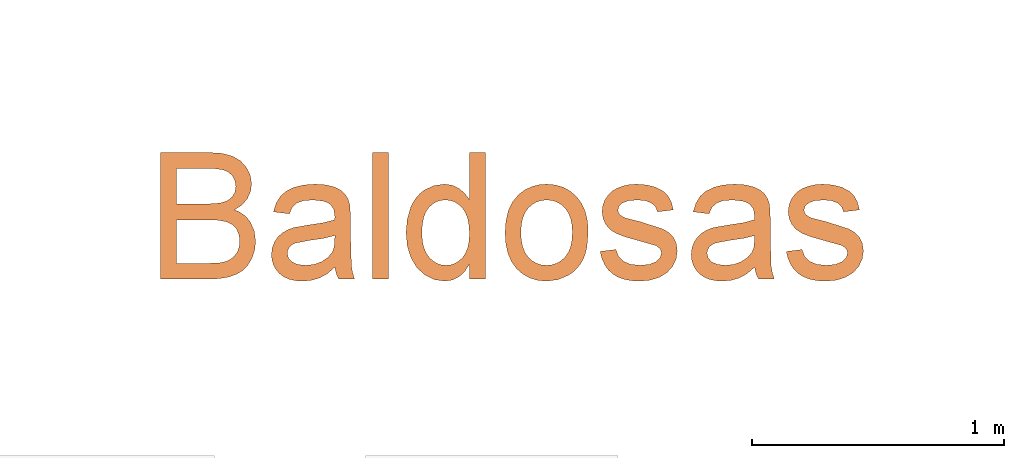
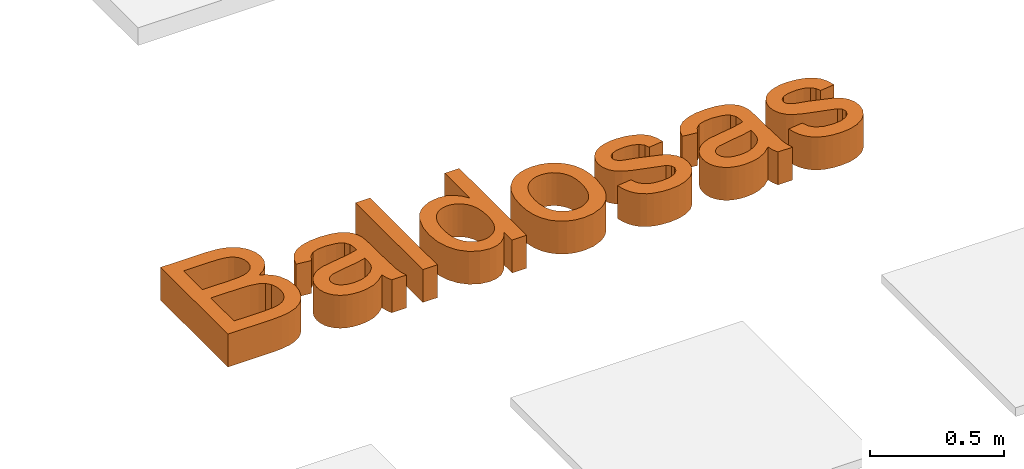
# One storey, part 7 of 19: 1 proxy.
"""IFC2X3 building model written with IfcOpenShell, lengths in metres."""

from ifc_helpers import new_model, entity, si_unit, converted_unit, derived_unit, direction, frame, frame_2d, origin, place, context, subcontext, project, spatial, polyline, rectangle, outline, extrude, type_object, element, save


model = new_model("IFC2X3")

# Units and contexts
model_context = context("Model", 3, precision=1e-05, world=origin(), true_north=direction((6.12303176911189e-17, 1.0)))
body_context = subcontext(model_context, "Body", "Model", "MODEL_VIEW")
ifc_project = project(units=[si_unit("LENGTHUNIT", "METRE"), si_unit("AREAUNIT", "SQUARE_METRE"), si_unit("VOLUMEUNIT", "CUBIC_METRE"), converted_unit("PLANEANGLEUNIT", "DEGREE", entity("IfcRatioMeasure", 0.0174532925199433), si_unit("PLANEANGLEUNIT", "RADIAN"), dimensions=[0, 0, 0, 0, 0, 0, 0]), si_unit("MASSUNIT", "GRAM", prefix="KILO"), derived_unit("MASSDENSITYUNIT", [(si_unit("MASSUNIT", "GRAM", prefix="KILO"), 1), (si_unit("LENGTHUNIT", "METRE"), -3)]), derived_unit("MOMENTOFINERTIAUNIT", [(si_unit("LENGTHUNIT", "METRE"), 4)]), si_unit("TIMEUNIT", "SECOND"), si_unit("FREQUENCYUNIT", "HERTZ"), si_unit("THERMODYNAMICTEMPERATUREUNIT", "DEGREE_CELSIUS"), derived_unit("THERMALTRANSMITTANCEUNIT", [(si_unit("MASSUNIT", "GRAM", prefix="KILO"), 1), (si_unit("THERMODYNAMICTEMPERATUREUNIT", "KELVIN"), -1), (si_unit("TIMEUNIT", "SECOND"), -3)]), derived_unit("VOLUMETRICFLOWRATEUNIT", [(si_unit("LENGTHUNIT", "METRE"), 3), (si_unit("TIMEUNIT", "SECOND"), -1)]), si_unit("ELECTRICCURRENTUNIT", "AMPERE"), si_unit("ELECTRICVOLTAGEUNIT", "VOLT"), si_unit("POWERUNIT", "WATT"), si_unit("FORCEUNIT", "NEWTON", prefix="KILO"), si_unit("ILLUMINANCEUNIT", "LUX"), si_unit("LUMINOUSFLUXUNIT", "LUMEN"), si_unit("LUMINOUSINTENSITYUNIT", "CANDELA"), derived_unit("USERDEFINED", [(si_unit("MASSUNIT", "GRAM", prefix="KILO"), -1), (si_unit("LENGTHUNIT", "METRE"), -2), (si_unit("TIMEUNIT", "SECOND"), 3), (si_unit("LUMINOUSFLUXUNIT", "LUMEN"), 1)]), derived_unit("LINEARVELOCITYUNIT", [(si_unit("LENGTHUNIT", "METRE"), 1), (si_unit("TIMEUNIT", "SECOND"), -1)]), si_unit("PRESSUREUNIT", "PASCAL"), derived_unit("USERDEFINED", [(si_unit("LENGTHUNIT", "METRE"), -2), (si_unit("MASSUNIT", "GRAM", prefix="KILO"), 1), (si_unit("TIMEUNIT", "SECOND"), -2)]), derived_unit("LINEARFORCEUNIT", [(si_unit("MASSUNIT", "GRAM", prefix="KILO"), 1), (si_unit("LENGTHUNIT", "METRE"), 1), (si_unit("TIMEUNIT", "SECOND"), -2), (si_unit("LENGTHUNIT", "METRE"), -1)]), derived_unit("PLANARFORCEUNIT", [(si_unit("MASSUNIT", "GRAM", prefix="KILO"), 1), (si_unit("LENGTHUNIT", "METRE"), 1), (si_unit("TIMEUNIT", "SECOND"), -2), (si_unit("LENGTHUNIT", "METRE"), -2)])], contexts=[model_context])

# Site, building, storey
site_placement = place(None, origin())
site = spatial("IfcSite", under=ifc_project, at=site_placement, Name="Default", CompositionType="ELEMENT")
building_placement = place(site_placement, origin())
building = spatial("IfcBuilding", under=site, at=building_placement, CompositionType="ELEMENT")
storey_placement = place(building_placement, origin())
storey = spatial("IfcBuildingStorey", under=building, at=storey_placement, Name="Nivel 1", CompositionType="ELEMENT", Elevation=0.0)

# Proxy
building_element_proxy_type = type_object("IfcBuildingElementProxyType", Name="Texto de modelo:Título", PredefinedType="NOTDEFINED")
proxy_placement = place(storey_placement, origin())
element("IfcBuildingElementProxy", 1, at=proxy_placement, inside=storey, type_object=building_element_proxy_type, Name="Texto de modelo:Título", ObjectType="Texto de modelo:Título", context=body_context, shape_type="SweptSolid", body=[
    extrude(outline(polyline([(-0.292681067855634, -0.243581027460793), (-0.102486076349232, -0.243581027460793), (-0.0585088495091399, -0.241419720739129), (-0.0219812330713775, -0.234935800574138), (0.00807779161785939, -0.22423656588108), (0.032649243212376, -0.209429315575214), (0.0527141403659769, -0.18898120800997), (0.0692535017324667, -0.16135940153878), (0.0803359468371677, -0.128878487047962), (0.0840300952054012, -0.0938530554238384), (0.0786191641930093, -0.0518225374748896), (0.0623863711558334, -0.0157394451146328), (0.0504033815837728, -0.000395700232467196), (0.0360981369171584, 0.0125261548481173), (0.0194706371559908, 0.0230261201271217), (0.000520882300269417, 0.0311041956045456), (0.030303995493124, 0.0506785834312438), (0.0514725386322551, 0.0755566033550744), (0.0641184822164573, 0.103990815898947), (0.0683337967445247, 0.134233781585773), (0.0633214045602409, 0.167097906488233), (0.0482842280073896, 0.198490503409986), (0.0244025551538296, 0.225177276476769), (-0.00714332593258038, 0.24392392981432), (-0.048300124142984, 0.255006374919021), (-0.101014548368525, 0.258700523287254), (-0.292681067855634, 0.258700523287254), (-0.292681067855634, -0.243581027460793)]), holes=[polyline([(-0.229895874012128, 0.0546486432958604), (-0.229895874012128, 0.195915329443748), (-0.123945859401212, 0.195915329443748), (-0.0752014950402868, 0.194275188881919), (-0.0432570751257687, 0.189354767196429), (-0.0224410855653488, 0.180019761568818), (-0.00708201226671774, 0.165135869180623), (0.00239094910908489, 0.146067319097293), (0.00554860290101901, 0.124178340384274), (0.00216102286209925, 0.10163023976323), (-0.00800171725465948, 0.0832821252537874), (-0.0248476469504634, 0.0693485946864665), (-0.0482847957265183, 0.0600442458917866), (-0.0751401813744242, 0.0559975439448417), (-0.115239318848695, 0.0546486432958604), (-0.229895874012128, 0.0546486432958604)]), polyline([(-0.229895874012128, -0.180795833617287), (-0.229895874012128, -0.00813655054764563), (-0.107268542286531, -0.00813655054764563), (-0.0625555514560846, -0.0102365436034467), (-0.0297067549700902, -0.016536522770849), (-0.00651486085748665, -0.0280175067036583), (0.00922742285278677, -0.0456605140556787), (0.0182405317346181, -0.0682239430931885), (0.0212449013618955, -0.0944661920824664), (0.0186850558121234, -0.117060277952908), (0.0110055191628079, -0.136772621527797), (-0.000644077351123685, -0.152882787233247), (-0.0151141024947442, -0.164670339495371), (-0.0329103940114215, -0.172901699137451), (-0.0545387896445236, -0.178343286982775), (-0.101137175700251, -0.180795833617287), (-0.229895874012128, -0.180795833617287)])]), frame((1.83103545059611, -3.62076429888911, 0.0)), (0.0, 0.0, 1.0), 0.15),
    extrude(outline(polyline([(0.160198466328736, 0.0633183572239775), (0.186081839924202, 0.0633183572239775), (0.209576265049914, 0.0683751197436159), (0.223259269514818, 0.129651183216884), (0.196354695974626, 0.12768038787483), (0.169011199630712, 0.128948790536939), (0.0618611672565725, 0.14960866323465), (-0.0143748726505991, 0.166632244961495), (-0.0686595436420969, 0.175612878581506), (-0.0932733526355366, 0.173350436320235), (-0.114444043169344, 0.166109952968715), (-0.133347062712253, 0.152284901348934), (-0.151157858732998, 0.130268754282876), (-0.166658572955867, 0.0992555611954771), (-0.178631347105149, 0.0584393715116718), (-0.185193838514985, 0.0145617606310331), (-0.184356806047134, -0.0251569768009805), (-0.176301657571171, -0.0592785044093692), (-0.161209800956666, -0.0863644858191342), (-0.138424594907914, -0.10811643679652), (-0.107289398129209, -0.12623587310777), (-0.0859468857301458, -0.0666701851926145), (-0.108704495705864, -0.0488037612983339), (-0.121173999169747, -0.0277690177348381), (-0.124323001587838, -0.000302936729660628), (-0.119119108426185, 0.0368574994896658), (-0.105885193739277, 0.075303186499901), (-0.096879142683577, 0.0896105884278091), (-0.0862803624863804, 0.100641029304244), (-0.065562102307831, 0.109301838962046), (-0.0372732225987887, 0.107413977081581), (-0.0237098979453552, 0.104008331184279), (-0.0220814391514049, 0.0578462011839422), (-0.0263777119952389, -0.00697087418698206), (-0.0290013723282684, -0.0620468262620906), (-0.0256182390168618, -0.0865653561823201), (-0.0184759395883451, -0.109441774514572), (-0.00688892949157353, -0.130138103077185), (0.00982833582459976, -0.148116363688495), (0.0309323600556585, -0.162063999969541), (0.0556796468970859, -0.17066845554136), (0.0777227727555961, -0.173552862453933), (0.0986131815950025, -0.172104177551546), (0.118350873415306, -0.1663224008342), (0.136935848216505, -0.156207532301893), (0.153501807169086, -0.141840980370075), (0.167182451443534, -0.123304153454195), (0.177977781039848, -0.100597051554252), (0.18588779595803, -0.0737196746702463), (0.190445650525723, -0.0391006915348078), (0.188458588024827, -0.00537611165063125), (0.17876379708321, 0.0284361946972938), (0.160198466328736, 0.0633183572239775)]), holes=[polyline([(0.0376463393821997, 0.0906843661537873), (0.0549197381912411, 0.0864502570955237), (0.0819049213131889, 0.0778800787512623), (0.10014824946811, 0.0661732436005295), (0.115770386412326, 0.045471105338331), (0.126707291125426, 0.0182763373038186), (0.131208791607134, -0.0132611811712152), (0.127524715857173, -0.0469915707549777), (0.117271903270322, -0.0772919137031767), (0.102280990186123, -0.0975818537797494), (0.0842943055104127, -0.107936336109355), (0.0650541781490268, -0.108430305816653), (0.0531649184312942, -0.103576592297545), (0.0433479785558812, -0.0947879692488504), (0.0362512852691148, -0.0825389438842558), (0.0325227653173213, -0.0673040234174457), (0.034361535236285, -0.0123669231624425), (0.0386557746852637, 0.0472362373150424), (0.0376463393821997, 0.0906843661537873)])]), frame((2.13228247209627, -3.67470775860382, 0.0), z_axis=(0.0, 0.0, 1.0), x_axis=(0.217933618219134, -0.975963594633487, 0.0)), (0.0, 0.0, 1.0), 0.15),
    extrude(rectangle(XDim=0.062785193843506, YDim=0.502281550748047, at=frame_2d((0.0, 5.55111512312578e-16), x_axis=(1.0, 0.0))), frame((2.40949894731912, -3.61320455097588, 0.0)), (0.0, 0.0, 1.0), 0.15),
    extrude(outline(polyline([(0.111602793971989, -0.204691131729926), (0.174387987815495, -0.204691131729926), (0.174387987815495, 0.297590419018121), (0.111602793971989, 0.297590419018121), (0.111602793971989, 0.110461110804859), (0.0933006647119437, 0.135247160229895), (0.0702773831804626, 0.154913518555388), (0.0431154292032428, 0.167743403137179), (0.0123972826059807, 0.172020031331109), (-0.0297711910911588, 0.166041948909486), (-0.0677396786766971, 0.148107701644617), (-0.0845549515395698, 0.134840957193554), (-0.0991322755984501, 0.118953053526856), (-0.111471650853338, 0.100443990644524), (-0.121573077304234, 0.0793137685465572), (-0.135046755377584, 0.0318876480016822), (-0.139537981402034, -0.0206275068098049), (-0.134663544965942, -0.073801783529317), (-0.120040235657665, -0.120507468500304), (-0.0965571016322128, -0.159181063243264), (-0.0651031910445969, -0.188259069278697), (-0.0279471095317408, -0.206469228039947), (0.0126425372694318, -0.212539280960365), (0.0433376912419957, -0.208346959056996), (0.070062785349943, -0.195769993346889), (0.0928178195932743, -0.174808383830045), (0.111602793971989, -0.145462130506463), (0.111602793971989, -0.204691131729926)]), holes=[polyline([(-0.0767527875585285, -0.0203822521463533), (-0.0750973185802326, 0.0109681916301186), (-0.0701309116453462, 0.0378197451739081), (-0.0618535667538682, 0.0601724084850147), (-0.0502652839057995, 0.0780261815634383), (-0.0362014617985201, 0.0916799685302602), (-0.0204974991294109, 0.101432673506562), (-0.00315339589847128, 0.107284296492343), (0.0158308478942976, 0.109234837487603), (0.0352634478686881, 0.107203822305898), (0.0530942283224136, 0.101110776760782), (0.0693231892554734, 0.090955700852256), (0.0839503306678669, 0.0767385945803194), (0.0960482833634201, 0.0581835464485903), (0.104689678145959, 0.0350146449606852), (0.109874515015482, 0.00723189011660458), (0.111602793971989, -0.0251647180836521), (0.109905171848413, -0.0547140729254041), (0.104812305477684, -0.0802090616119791), (0.0963241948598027, -0.101649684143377), (0.0844408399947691, -0.119035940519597), (0.0701279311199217, -0.132475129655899), (0.0543511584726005, -0.142074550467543), (0.0371105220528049, -0.14783420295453), (0.0184060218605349, -0.149754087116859), (-0.000210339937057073, -0.147742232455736), (-0.0175544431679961, -0.141706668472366), (-0.0336262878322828, -0.131647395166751), (-0.0484258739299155, -0.117564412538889), (-0.0608188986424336, -0.0994193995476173), (-0.0696710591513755, -0.0771740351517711), (-0.0749823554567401, -0.0508283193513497), (-0.0767527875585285, -0.0203822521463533)])]), frame((2.65106286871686, -3.65965419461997, 0.0)), (0.0, 0.0, 1.0), 0.15),
    extrude(outline(polyline([(-0.0131957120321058, -0.170548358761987), (0.0307665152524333, -0.170548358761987), (0.0696520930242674, -0.164512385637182), (0.103461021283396, -0.152440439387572), (0.132193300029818, -0.134332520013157), (0.155411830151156, -0.111243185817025), (0.172679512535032, -0.0842269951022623), (0.183996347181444, -0.0532839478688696), (0.189362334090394, -0.0184140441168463), (0.186618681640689, 0.0261717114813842), (0.172415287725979, 0.0679068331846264), (0.161237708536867, 0.0869767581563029), (0.147638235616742, 0.103876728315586), (0.131616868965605, 0.118606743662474), (0.113173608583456, 0.131166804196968), (0.091547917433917, 0.141494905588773), (0.0659792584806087, 0.149529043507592), (0.00301303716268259, 0.158715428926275), (-0.0385534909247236, 0.158529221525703), (-0.0757586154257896, 0.15229201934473), (-0.108602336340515, 0.140003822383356), (-0.137084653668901, 0.121664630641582), (-0.160392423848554, 0.0984428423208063), (-0.177712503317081, 0.0715068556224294), (-0.189044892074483, 0.0408566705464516), (-0.194389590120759, 0.0064922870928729), (-0.1938749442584, -0.0249843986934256), (-0.18810582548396, -0.0543136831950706), (-0.177082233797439, -0.0814955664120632), (-0.160804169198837, -0.106530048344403), (-0.134450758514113, -0.132057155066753), (-0.101064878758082, -0.1512359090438), (-0.060646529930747, -0.164066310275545), (-0.0131957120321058, -0.170548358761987)]), holes=[polyline([(-0.009251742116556, -0.107887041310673), (-0.0395162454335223, -0.10410257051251), (-0.0654537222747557, -0.0969584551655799), (-0.0870641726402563, -0.0864546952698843), (-0.104347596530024, -0.0725912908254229), (-0.117399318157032, -0.0562452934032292), (-0.126314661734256, -0.0382937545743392), (-0.131093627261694, -0.0187366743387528), (-0.131736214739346, 0.00242594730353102), (-0.128372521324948, 0.0230712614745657), (-0.121092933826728, 0.0416882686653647), (-0.109897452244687, 0.0582769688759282), (-0.0947860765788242, 0.0728373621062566), (-0.075934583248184, 0.0844361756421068), (-0.0535187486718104, 0.0921401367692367), (-0.0275385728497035, 0.0959492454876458), (0.00200594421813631, 0.0958635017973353), (0.0329855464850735, 0.0920326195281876), (0.059477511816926, 0.0848525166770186), (0.0814818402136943, 0.074323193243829), (0.0989985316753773, 0.0604446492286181), (0.112185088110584, 0.044105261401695), (0.121199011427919, 0.0261934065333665), (0.126040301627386, 0.00670908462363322), (0.126708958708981, -0.0143477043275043), (0.123328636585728, -0.0352492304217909), (0.116038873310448, -0.0540230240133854), (0.10483966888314, -0.0706690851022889), (0.0897310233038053, -0.0851874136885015), (0.0707470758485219, -0.0966969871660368), (0.0479219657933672, -0.104316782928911), (0.0212556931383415, -0.108046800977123), (-0.009251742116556, -0.107887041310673)])]), frame((3.07497727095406, -3.6820361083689, 0.0), z_axis=(0.0, 0.0, 1.0), x_axis=(0.0647659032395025, -0.997900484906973, 0.0)), (0.0, 0.0, 1.0), 0.15),
    extrude(outline(polyline([(0.0420799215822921, -0.15930248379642), (0.0703306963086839, -0.15930248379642), (0.0959363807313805, -0.155125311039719), (0.118896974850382, -0.146770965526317), (0.139212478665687, -0.134239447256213), (0.156930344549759, -0.117092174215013), (0.172098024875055, -0.094890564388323), (0.184715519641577, -0.0676346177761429), (0.194782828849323, -0.0353243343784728), (0.20111990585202, 0.0055078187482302), (0.19888578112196, 0.0438236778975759), (0.188273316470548, 0.0777565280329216), (0.169475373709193, 0.105439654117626), (0.144578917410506, 0.125808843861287), (0.115670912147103, 0.137799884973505), (0.085680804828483, 0.141369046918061), (0.0589648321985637, 0.136112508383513), (0.0356923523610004, 0.122951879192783), (0.0160327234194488, 0.102808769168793), (-0.0351726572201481, 0.0206878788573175), (-0.0613660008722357, -0.0284758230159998), (-0.0707240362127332, -0.040373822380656), (-0.0805330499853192, -0.0477947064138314), (-0.0902585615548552, -0.051126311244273), (-0.100079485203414, -0.050576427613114), (-0.113363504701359, -0.0425759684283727), (-0.122539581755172, -0.0263165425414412), (-0.125308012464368, -0.000829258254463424), (-0.119369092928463, 0.0348547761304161), (-0.108606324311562, 0.0647841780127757), (-0.0937824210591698, 0.0853730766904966), (-0.0755138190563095, 0.0969351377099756), (-0.0544169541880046, 0.0997840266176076), (-0.0466626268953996, 0.162580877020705), (-0.0794831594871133, 0.162263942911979), (-0.106578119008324, 0.155443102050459), (-0.129750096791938, 0.140676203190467), (-0.15080168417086, 0.116521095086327), (-0.168458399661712, 0.0843318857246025), (-0.181445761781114, 0.045462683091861), (-0.186418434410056, 0.0179293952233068), (-0.187232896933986, -0.00878786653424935), (-0.18453913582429, -0.0327544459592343), (-0.178987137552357, -0.052035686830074), (-0.167694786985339, -0.0728763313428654), (-0.151859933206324, -0.0906265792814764), (-0.132157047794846, -0.104325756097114), (-0.109260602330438, -0.113013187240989), (-0.0826896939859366, -0.116098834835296), (-0.0567193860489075, -0.111792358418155), (-0.0326654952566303, -0.099983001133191), (-0.0118438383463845, -0.080560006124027), (0.0109889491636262, -0.0479065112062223), (0.0742494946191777, 0.0618730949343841), (0.0899284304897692, 0.0741361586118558), (0.106727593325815, 0.0753031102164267), (0.123584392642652, 0.0656737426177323), (0.135393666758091, 0.0465681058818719), (0.13971713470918, 0.0182221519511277), (0.134116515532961, -0.0191281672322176), (0.120882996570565, -0.0550263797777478), (0.102127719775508, -0.0797294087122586), (0.0782962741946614, -0.0934761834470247), (0.0498342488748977, -0.0965056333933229), (0.0420799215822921, -0.15930248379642)])), frame((3.42480561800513, -3.67468848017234, 0.0), z_axis=(0.0, 0.0, 1.0), x_axis=(0.244705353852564, -0.969597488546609, 0.0)), (0.0, 0.0, 1.0), 0.15),
    extrude(outline(polyline([(0.160198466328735, 0.0633183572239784), (0.186081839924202, 0.0633183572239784), (0.209576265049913, 0.0683751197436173), (0.223259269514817, 0.129651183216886), (0.196354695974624, 0.127680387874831), (0.169011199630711, 0.12894879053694), (0.0618611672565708, 0.14960866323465), (-0.014374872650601, 0.166632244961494), (-0.0686595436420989, 0.175612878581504), (-0.0932733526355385, 0.173350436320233), (-0.114444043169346, 0.166109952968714), (-0.133347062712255, 0.152284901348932), (-0.151157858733, 0.130268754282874), (-0.166658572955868, 0.0992555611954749), (-0.178631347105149, 0.0584393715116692), (-0.185193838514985, 0.0145617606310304), (-0.184356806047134, -0.0251569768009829), (-0.17630165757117, -0.0592785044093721), (-0.161209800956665, -0.0863644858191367), (-0.138424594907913, -0.108116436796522), (-0.107289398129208, -0.126235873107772), (-0.0859468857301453, -0.0666701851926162), (-0.108704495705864, -0.0488037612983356), (-0.121173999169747, -0.0277690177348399), (-0.124323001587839, -0.000302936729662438), (-0.119119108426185, 0.0368574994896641), (-0.105885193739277, 0.0753031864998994), (-0.096879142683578, 0.0896105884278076), (-0.0862803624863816, 0.100641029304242), (-0.0655621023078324, 0.109301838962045), (-0.03727322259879, 0.10741397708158), (-0.0237098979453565, 0.104008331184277), (-0.0220814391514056, 0.0578462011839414), (-0.0263777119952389, -0.00697087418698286), (-0.0290013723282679, -0.0620468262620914), (-0.0256182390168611, -0.0865653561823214), (-0.0184759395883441, -0.109441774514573), (-0.00688892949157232, -0.130138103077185), (0.00982833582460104, -0.148116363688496), (0.0309323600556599, -0.162063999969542), (0.0556796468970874, -0.17066845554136), (0.0777227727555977, -0.173552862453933), (0.0986131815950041, -0.172104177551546), (0.118350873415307, -0.166322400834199), (0.136935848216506, -0.156207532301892), (0.153501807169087, -0.141840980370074), (0.167182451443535, -0.123304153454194), (0.177977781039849, -0.100597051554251), (0.185887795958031, -0.0737196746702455), (0.190445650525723, -0.0391006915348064), (0.188458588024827, -0.00537611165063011), (0.17876379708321, 0.0284361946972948), (0.160198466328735, 0.0633183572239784)]), holes=[polyline([(0.0376463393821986, 0.0906843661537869), (0.05491973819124, 0.0864502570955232), (0.081904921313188, 0.0778800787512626), (0.100148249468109, 0.06617324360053), (0.115770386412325, 0.0454711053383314), (0.126707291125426, 0.0182763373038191), (0.131208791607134, -0.0132611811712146), (0.127524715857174, -0.0469915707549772), (0.117271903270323, -0.0772919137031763), (0.102280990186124, -0.0975818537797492), (0.0842943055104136, -0.107936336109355), (0.0650541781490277, -0.108430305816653), (0.053164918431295, -0.103576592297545), (0.043347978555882, -0.0947879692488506), (0.0362512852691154, -0.0825389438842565), (0.0325227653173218, -0.0673040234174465), (0.0343615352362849, -0.0123669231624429), (0.0386557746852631, 0.047236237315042), (0.0376463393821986, 0.0906843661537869)])]), frame((3.79609010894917, -3.67470775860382, 0.0), z_axis=(0.0, 0.0, 1.0), x_axis=(0.217933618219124, -0.975963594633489, 0.0)), (0.0, 0.0, 1.0), 0.15),
    extrude(outline(polyline([(0.0420799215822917, -0.159302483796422), (0.0703306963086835, -0.159302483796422), (0.0959363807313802, -0.155125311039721), (0.118896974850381, -0.146770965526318), (0.139212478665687, -0.134239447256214), (0.156930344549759, -0.117092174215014), (0.172098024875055, -0.094890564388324), (0.184715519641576, -0.0676346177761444), (0.194782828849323, -0.0353243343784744), (0.201119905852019, 0.00550781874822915), (0.198885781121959, 0.0438236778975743), (0.188273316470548, 0.07775652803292), (0.169475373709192, 0.105439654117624), (0.144578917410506, 0.125808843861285), (0.115670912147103, 0.137799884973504), (0.0856808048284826, 0.141369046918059), (0.0589648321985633, 0.136112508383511), (0.0356923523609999, 0.122951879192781), (0.0160327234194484, 0.102808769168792), (-0.0351726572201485, 0.0206878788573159), (-0.0613660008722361, -0.0284758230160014), (-0.0707240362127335, -0.0403738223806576), (-0.0805330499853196, -0.047794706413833), (-0.0902585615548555, -0.051126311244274), (-0.100079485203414, -0.0505764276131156), (-0.11336350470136, -0.0425759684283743), (-0.122539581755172, -0.0263165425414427), (-0.125308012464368, -0.000829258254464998), (-0.119369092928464, 0.0348547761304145), (-0.108606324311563, 0.0647841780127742), (-0.0937824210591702, 0.085373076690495), (-0.07551381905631, 0.0969351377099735), (-0.054416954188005, 0.099784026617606), (-0.0466626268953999, 0.162580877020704), (-0.0794831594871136, 0.162263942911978), (-0.106578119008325, 0.155443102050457), (-0.129750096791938, 0.140676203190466), (-0.150801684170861, 0.116521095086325), (-0.168458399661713, 0.0843318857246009), (-0.181445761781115, 0.0454626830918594), (-0.186418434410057, 0.0179293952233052), (-0.187232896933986, -0.00878786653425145), (-0.18453913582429, -0.0327544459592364), (-0.178987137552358, -0.0520356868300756), (-0.167694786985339, -0.0728763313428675), (-0.151859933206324, -0.0906265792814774), (-0.132157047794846, -0.104325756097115), (-0.109260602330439, -0.11301318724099), (-0.082689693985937, -0.116098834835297), (-0.0567193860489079, -0.111792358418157), (-0.0326654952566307, -0.0999830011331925), (-0.0118438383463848, -0.080560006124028), (0.0109889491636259, -0.0479065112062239), (0.0742494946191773, 0.0618730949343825), (0.0899284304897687, 0.0741361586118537), (0.106727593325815, 0.0753031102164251), (0.123584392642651, 0.0656737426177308), (0.135393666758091, 0.0465681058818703), (0.139717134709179, 0.0182221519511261), (0.13411651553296, -0.0191281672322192), (0.120882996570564, -0.0550263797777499), (0.102127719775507, -0.0797294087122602), (0.078296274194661, -0.0934761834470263), (0.0498342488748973, -0.0965056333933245), (0.0420799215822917, -0.159302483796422)])), frame((4.16253164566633, -3.67468848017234, 0.0), z_axis=(0.0, 0.0, 1.0), x_axis=(0.244705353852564, -0.969597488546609, 0.0)), (0.0, 0.0, 1.0), 0.15),
])

save(model, "model.ifc")
